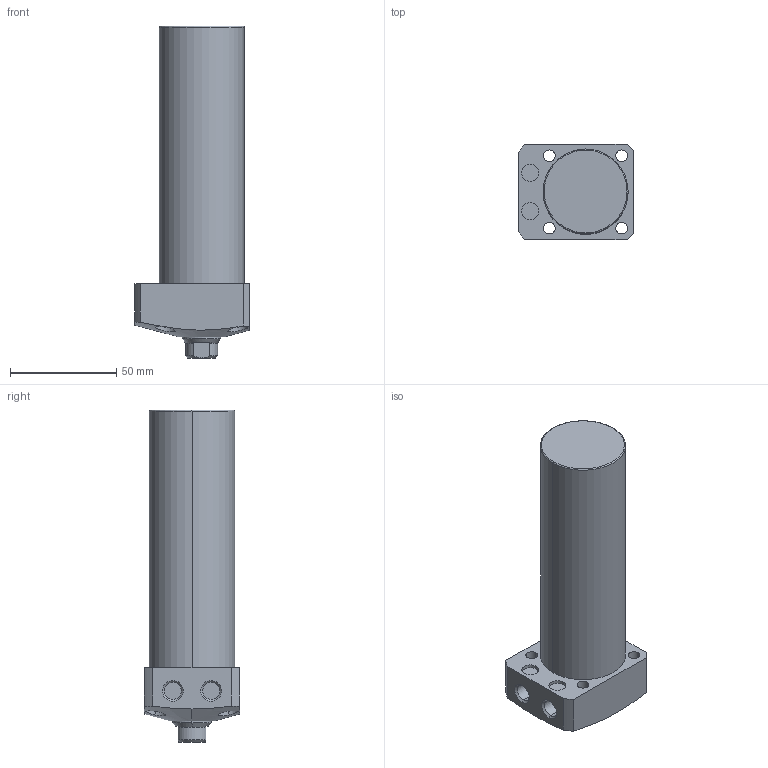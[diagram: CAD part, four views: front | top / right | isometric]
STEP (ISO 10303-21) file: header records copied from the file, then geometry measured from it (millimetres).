
FILE_DESCRIPTION (( 'STEP AP203' ), '1' );
FILE_NAME ('CLL-040CA-095.STEP', '2019-12-21T03:41:37', ( '' ), ( '' ), 'SwSTEP 2.0', 'SolidWorks 2015', '' );
FILE_SCHEMA (( 'CONFIG_CONTROL_DESIGN' ));
Length unit declared in the file: millimetre
Products named in the file (1): CLL-040CA-095
Bounding box: 54 x 45 x 156 mm (x, y, z)
Volume: 202491.4 mm3; surface area: 27307.6 mm2
Topology: 1 solids, 1 shells, 74 faces, 170 edges, 107 vertices
Faces by surface type: cylinder 35, plane 22, cone 15, torus 2
Entity records: 2505 total; most frequent: CARTESIAN_POINT 718, DIRECTION 374, ORIENTED_EDGE 336, EDGE_CURVE 168, AXIS2_PLACEMENT_3D 155, VERTEX_POINT 107, EDGE_LOOP 93, CIRCLE 80
